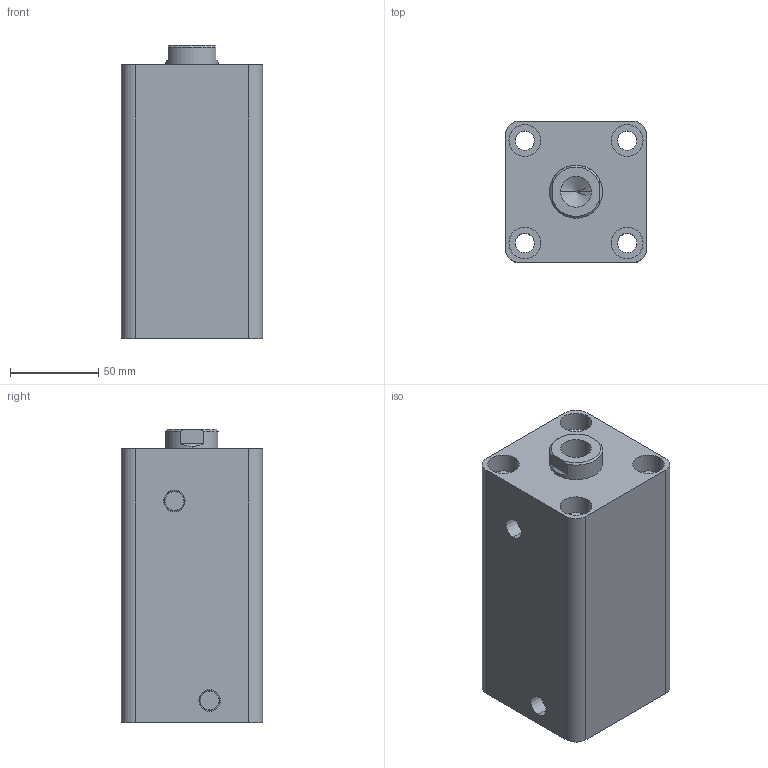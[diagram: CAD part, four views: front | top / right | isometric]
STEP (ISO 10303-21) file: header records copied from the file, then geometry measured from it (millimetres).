
FILE_DESCRIPTION (( 'STEP AP203' ), '1' );
FILE_NAME ('HTB-SD50-95N.STEP', '2019-10-07T07:22:47', ( '微软用户' ), ( '微软中国' ), 'SwSTEP 2.0', 'SolidWorks 2012', '' );
FILE_SCHEMA (( 'CONFIG_CONTROL_DESIGN' ));
Length unit declared in the file: millimetre
Products named in the file (3): HTB-SD50-95N; HTB-SD50-95N活塞杆; HTB-SD50-95掛极
Assembly tree (2 placements, depth 2):
  HTB-SD50-95N
    HTB-SD50-95掛极
    HTB-SD50-95N活塞杆
Bounding box: 80 x 80 x 166 mm (x, y, z)
Volume: 789832.5 mm3; surface area: 128080.2 mm2
Topology: 2 solids, 2 shells, 83 faces, 184 edges, 119 vertices
Faces by surface type: cylinder 42, plane 27, cone 8, torus 6
Entity records: 2655 total; most frequent: DIRECTION 456, CARTESIAN_POINT 417, ORIENTED_EDGE 364, AXIS2_PLACEMENT_3D 194, EDGE_CURVE 182, VERTEX_POINT 119, EDGE_LOOP 107, CIRCLE 106
